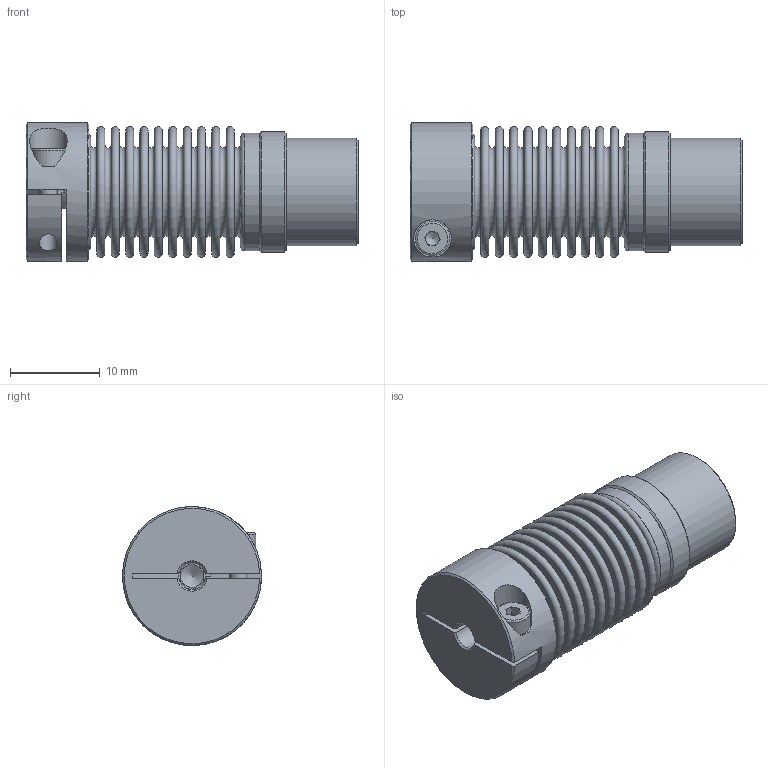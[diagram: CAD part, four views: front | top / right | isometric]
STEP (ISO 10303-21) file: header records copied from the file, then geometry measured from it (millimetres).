
FILE_DESCRIPTION( ( 'Unknown' ), '1' );
FILE_NAME( 'K:/Konstruktion/cad kunden/3D - Daten/KB3/KB3-10-30.stp', 'Unknown', ( 'Unknown' ), ( 'Unknown' ), 'PSStep 16.0.42', 'Unknown', ' ' );
FILE_SCHEMA( ( 'AUTOMOTIVE_DESIGN { 1 0 10303 214 1 1 1 1 }' ) );
Length unit declared in the file: millimetre
Products named in the file (6): Assem1; KN10_Standard_11; BL10_Standard_0; SN10; Socket Head Cap Screw_DIN_DIN 912 M2 x 8 --- 8N_5; Socket Head Cap Screw_DIN_DIN 912 M3 x 10 --- 10N_2
Assembly tree (5 placements, depth 2):
  Assem1
    KN10_Standard_11
    BL10_Standard_0
    SN10
    Socket Head Cap Screw_DIN_DIN 912 M2 x 8 --- 8N_5
    Socket Head Cap Screw_DIN_DIN 912 M3 x 10 --- 10N_2
Bounding box: 37 x 15.5 x 15.5 mm (x, y, z)
Volume: 3086.6 mm3; surface area: 7113 mm2
Topology: 5 solids, 5 shells, 173 faces, 323 edges, 208 vertices
Faces by surface type: plane 91, torus 50, cylinder 20, cone 12
Full cylindrical faces by diameter (mm): 2 x2, 2.2 x1, 2.5 x1, 3 x2, 3.8 x1, 5.5 x1, 12 x1, 12.9 x3, 13.1 x2, 13.5 x1, 15.5 x1
Entity records: 5546 total; most frequent: DIRECTION 752, CARTESIAN_POINT 727, ORIENTED_EDGE 474, AXIS2_PLACEMENT_3D 340, EDGE_LOOP 306, FACE_OUTER_BOUND 239, EDGE_CURVE 237, VERTEX_POINT 219
